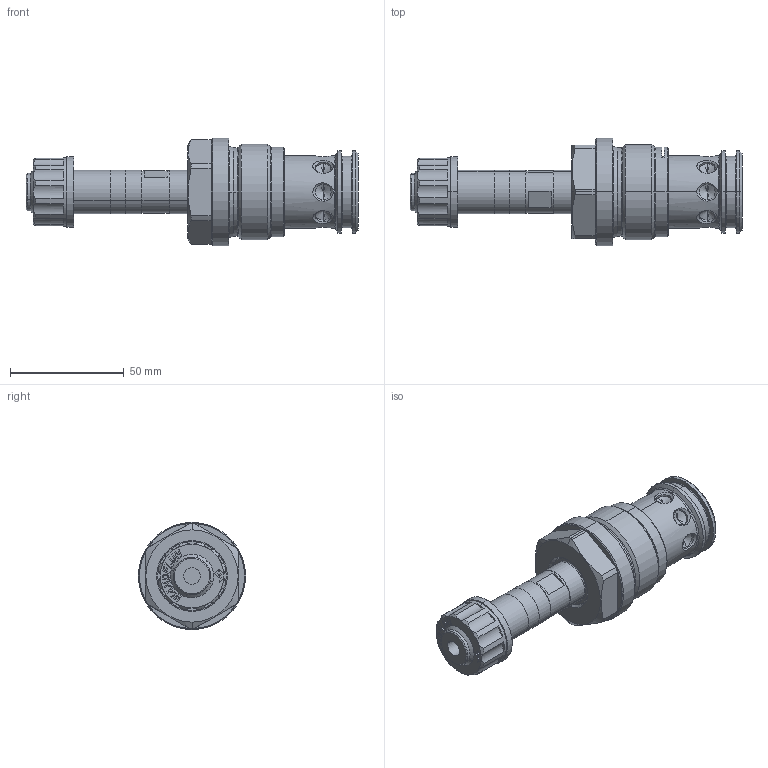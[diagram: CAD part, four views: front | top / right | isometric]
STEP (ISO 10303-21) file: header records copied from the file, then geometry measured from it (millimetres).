
FILE_DESCRIPTION (( 'STEP AP214' ), '1' );
FILE_NAME ('BVPPM42.STEP', '2014-03-19T09:30:39', ( '' ), ( '' ), 'SwSTEP 2.0', 'SolidWorks 2012', '' );
FILE_SCHEMA (( 'AUTOMOTIVE_DESIGN' ));
Length unit declared in the file: millimetre
Products named in the file (1): BVPPM42
Bounding box: 145.7 x 47 x 47 mm (x, y, z)
Volume: 108945.2 mm3; surface area: 31670.5 mm2
Topology: 6 solids, 6 shells, 509 faces, 1214 edges, 741 vertices
Faces by surface type: plane 185, cylinder 137, cone 109, torus 62, bspline 16
Entity records: 21970 total; most frequent: CARTESIAN_POINT 4559, DIRECTION 2509, ORIENTED_EDGE 2392, EDGE_CURVE 1196, AXIS2_PLACEMENT_3D 963, VERTEX_POINT 741, VECTOR 583, LINE 583
